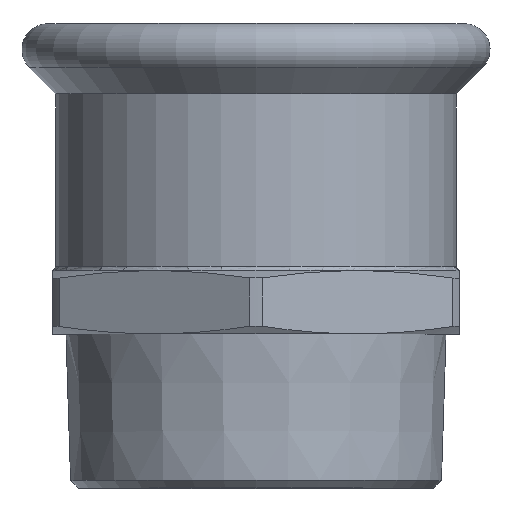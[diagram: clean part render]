
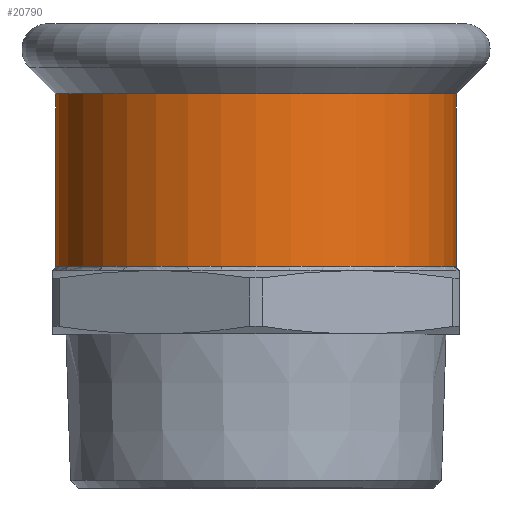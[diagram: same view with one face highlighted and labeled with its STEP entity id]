
A CAD part, top view. The second image highlights one B-rep face of the part: STEP entity #20790.
In plain terms, the highlighted cylindrical face has radius 46.775 mm (diameter 93.55 mm), a partial arc.
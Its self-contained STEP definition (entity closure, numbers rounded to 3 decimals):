
#60=CARTESIAN_POINT('',(46.775,23.307,0.));
#70=DIRECTION('',(0.,1.,0.));
#80=VECTOR('',#70,1.);
#90=LINE('',#60,#80);
#100=CARTESIAN_POINT('',(46.775,6.267,0.));
#110=VERTEX_POINT('',#100);
#120=CARTESIAN_POINT('',(46.775,46.615,0.));
#130=VERTEX_POINT('705729-1530167607-180373220723-0 1473476',#120);
#140=EDGE_CURVE('',#110,#130,#90,.T.);
#160=CARTESIAN_POINT('',(0.,46.615,0.));
#170=DIRECTION('',(0.,1.,0.));
#180=DIRECTION('',(1.,0.,0.));
#190=AXIS2_PLACEMENT_3D('',#160,#170,#180);
#200=CIRCLE('',#190,46.775);
#210=CARTESIAN_POINT('',(-46.775,46.615,0.)
);
#220=VERTEX_POINT('',#210);
#250=CARTESIAN_POINT('',(-46.775,23.307,0.)
);
#260=DIRECTION('',(0.,1.,0.));
#270=VECTOR('',#260,1.);
#280=LINE('',#250,#270);
#290=CARTESIAN_POINT('',(-46.775,6.267,0.)
);
#300=VERTEX_POINT('705729-1530167607-180373220723-0 1473456',#290);
#310=EDGE_CURVE('',#300,#220,#280,.T.);
#330=CARTESIAN_POINT('',(0.,6.267,0.));
#340=DIRECTION('',(0.,1.,0.));
#350=DIRECTION('',(1.,0.,0.));
#360=AXIS2_PLACEMENT_3D('',#330,#340,#350);
#370=CIRCLE('',#360,46.775);
#560=EDGE_CURVE('705729-1530167607-180373220723-0 1473471',#220,#130,
#200,.T.);
#20670=CARTESIAN_POINT('',(0.,23.307,0.));
#20680=DIRECTION('',(0.,1.,0.));
#20690=DIRECTION('',(1.,0.,0.));
#20700=AXIS2_PLACEMENT_3D('',#20670,#20680,#20690);
#20710=CYLINDRICAL_SURFACE('',#20700,46.775);
#20720=ORIENTED_EDGE('',*,*,#140,.T.);
#20730=EDGE_CURVE('705729-1530167607-180373220723-0 1473451',#300,#110,
#370,.T.);
#20740=ORIENTED_EDGE('',*,*,#20730,.T.);
#20750=ORIENTED_EDGE('',*,*,#310,.F.);
#20760=ORIENTED_EDGE('',*,*,#560,.F.);
#20770=EDGE_LOOP('',(#20760,#20750,#20740,#20720));
#20780=FACE_OUTER_BOUND('',#20770,.T.);
#20790=ADVANCED_FACE('705729-1530167607-180373220723-0 1473463',(#20780)
,#20710,.T.);
